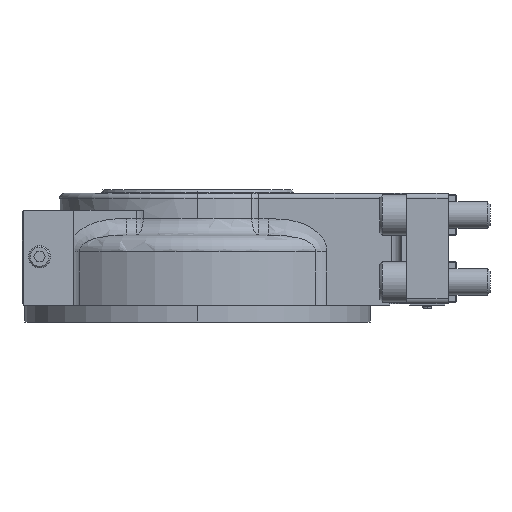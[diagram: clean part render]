
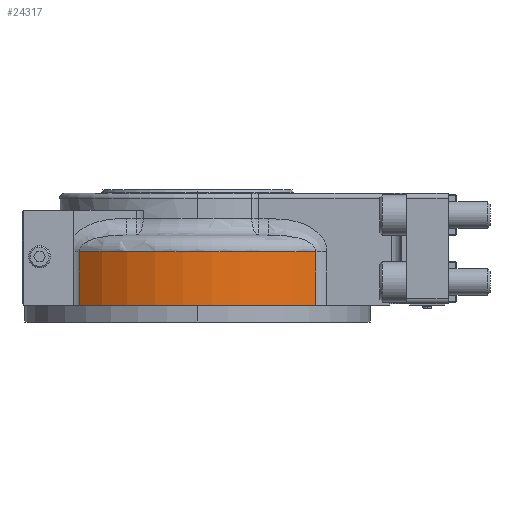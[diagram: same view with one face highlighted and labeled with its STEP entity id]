
A CAD part, left-side view. The second image highlights one B-rep face of the part: STEP entity #24317.
In plain terms, the highlighted cylindrical face has radius 105 mm (diameter 210 mm), a partial arc.
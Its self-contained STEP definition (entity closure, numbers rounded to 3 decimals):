
#577 = ORIENTED_EDGE ( 'NONE', *, *, #60454, .T. ) ;
#868 = EDGE_LOOP ( 'NONE', ( #577, #49304, #35939, #56624 ) ) ;
#3736 = CARTESIAN_POINT ( 'NONE',  ( -77.609, -70.724, -37. ) ) ;
#12845 = DIRECTION ( 'NONE',  ( 0., 0., -1. ) ) ;
#14438 = LINE ( 'NONE', #39524, #35874 ) ;
#16793 = AXIS2_PLACEMENT_3D ( 'NONE', #32952, #12845, #51106 ) ;
#19473 = CARTESIAN_POINT ( 'NONE',  ( -77.609, 70.724, -69. ) ) ;
#22471 = EDGE_CURVE ( 'NONE', #81120, #71010, #73349, .T. ) ;
#23695 = AXIS2_PLACEMENT_3D ( 'NONE', #56843, #62216, #49451 ) ;
#24317 = ADVANCED_FACE ( 'NONE', ( #81164 ), #75787, .T. ) ;
#27824 = CIRCLE ( 'NONE', #58059, 105. ) ;
#31544 = CARTESIAN_POINT ( 'NONE',  ( 0., 0., -69. ) ) ;
#32952 = CARTESIAN_POINT ( 'NONE',  ( 0., 0., -37. ) ) ;
#35046 = VECTOR ( 'NONE', #53944, 1000. ) ;
#35874 = VECTOR ( 'NONE', #71226, 1000. ) ;
#35939 = ORIENTED_EDGE ( 'NONE', *, *, #22471, .T. ) ;
#39524 = CARTESIAN_POINT ( 'NONE',  ( -77.609, -70.724, -69. ) ) ;
#41544 = CARTESIAN_POINT ( 'NONE',  ( -77.609, 70.724, -69. ) ) ;
#47649 = EDGE_CURVE ( 'NONE', #58476, #81120, #14438, .T. ) ;
#49304 = ORIENTED_EDGE ( 'NONE', *, *, #47649, .T. ) ;
#49451 = DIRECTION ( 'NONE',  ( 1., 0., 0. ) ) ;
#51106 = DIRECTION ( 'NONE',  ( 1., 0., 0. ) ) ;
#53944 = DIRECTION ( 'NONE',  ( 0., 0., -1. ) ) ;
#56624 = ORIENTED_EDGE ( 'NONE', *, *, #70921, .T. ) ;
#56843 = CARTESIAN_POINT ( 'NONE',  ( 0., 0., -69. ) ) ;
#57323 = CARTESIAN_POINT ( 'NONE',  ( -77.609, -70.724, -69. ) ) ;
#58059 = AXIS2_PLACEMENT_3D ( 'NONE', #31544, #68181, #81374 ) ;
#58476 = VERTEX_POINT ( 'NONE', #57323 ) ;
#60454 = EDGE_CURVE ( 'NONE', #61068, #58476, #27824, .T. ) ;
#61068 = VERTEX_POINT ( 'NONE', #19473 ) ;
#62216 = DIRECTION ( 'NONE',  ( 0., 0., 1. ) ) ;
#68181 = DIRECTION ( 'NONE',  ( 0., 0., 1. ) ) ;
#70921 = EDGE_CURVE ( 'NONE', #71010, #61068, #79445, .T. ) ;
#71010 = VERTEX_POINT ( 'NONE', #81061 ) ;
#71226 = DIRECTION ( 'NONE',  ( 0., 0., 1. ) ) ;
#73349 = CIRCLE ( 'NONE', #16793, 105. ) ;
#75787 = CYLINDRICAL_SURFACE ( 'NONE', #23695, 105. ) ;
#79445 = LINE ( 'NONE', #41544, #35046 ) ;
#81061 = CARTESIAN_POINT ( 'NONE',  ( -77.609, 70.724, -37. ) ) ;
#81120 = VERTEX_POINT ( 'NONE', #3736 ) ;
#81164 = FACE_OUTER_BOUND ( 'NONE', #868, .T. ) ;
#81374 = DIRECTION ( 'NONE',  ( 1., 0., 0. ) ) ;
